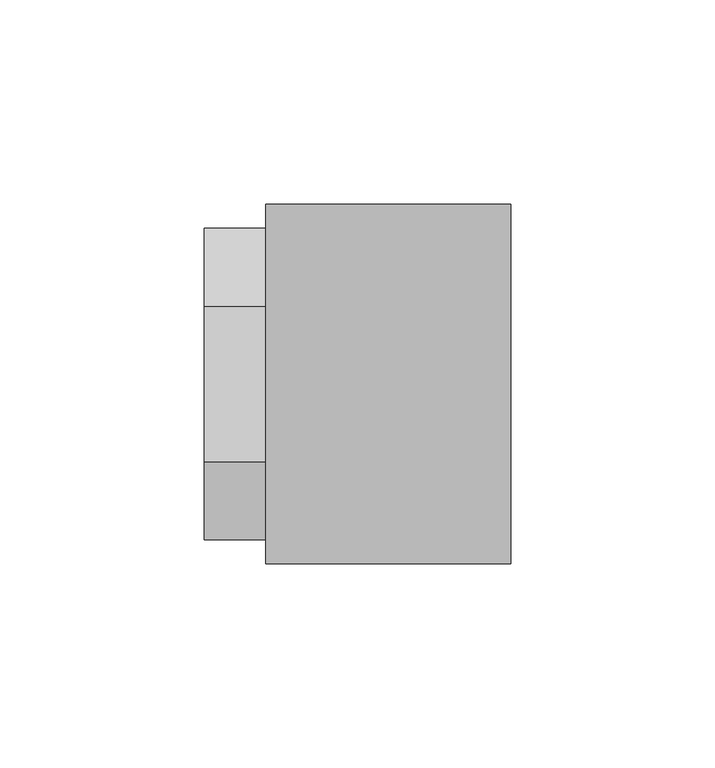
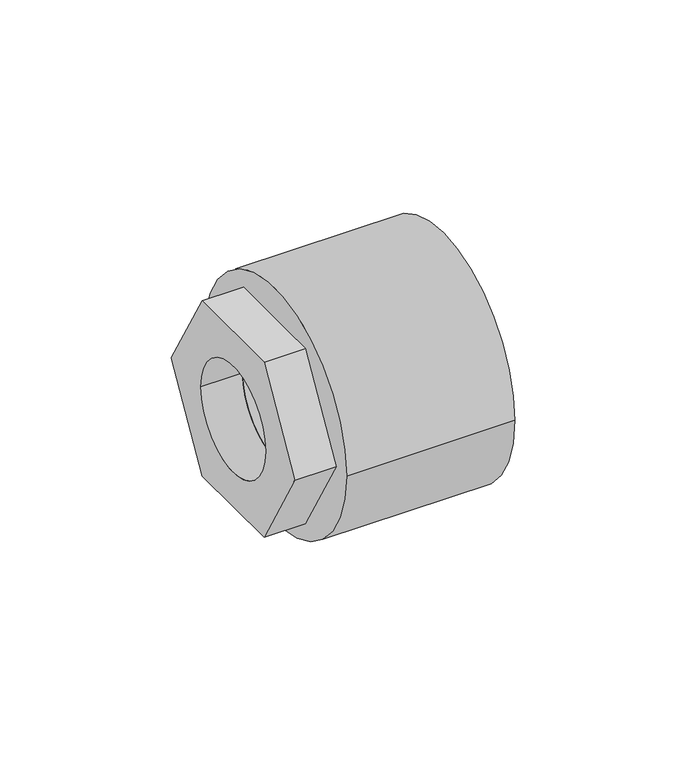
"""IFC4 building model written with IfcOpenShell, lengths in millimetres: pipe fitting geometry, NIRON RED termofusion roscado enlace rosca hembra hexagonal : Estándar."""

import ifcopenshell
import ifcopenshell.guid

model = None  # the IFC model being written
_history = None  # IfcOwnerHistory: only IFC2X3 demands one
_inside = {}  # id of a spatial element -> (the spatial element, [elements in it])
_under = {}  # id of a project, library or spatial element -> (it, [spatial elements below it])
_declared = {}  # id of a project -> (the project, [libraries it declares])
_typed = {}  # id of a type object -> (the type object, [elements of that type])
_made_of = {}  # id of a material, layer set ... -> (it, [elements and type objects made of it])


def new_model(schema):
    """Start an empty IFC model of exactly this schema.

    Asked for "IFC4X3", IfcOpenShell would pick the latest addendum, in which some entities
    have other attributes; the version numbers below select the first issue.
    IFC2X3 requires an IfcOwnerHistory on every rooted entity: one is made here for all.
    """
    global model, _history
    if schema == "IFC4X3":
        model = ifcopenshell.file(schema_version=(4, 3, 0, 0))
    else:
        model = ifcopenshell.file(schema=schema)
    _inside.clear()
    _under.clear()
    _declared.clear()
    _typed.clear()
    _made_of.clear()
    _history = None
    if model.schema == "IFC2X3":
        org = make("IfcOrganization", Name="unknown")
        user = make(
            "IfcPersonAndOrganization",
            ThePerson=make("IfcPerson", FamilyName="unknown"),
            TheOrganization=org,
        )
        app = make(
            "IfcApplication",
            ApplicationDeveloper=org,
            Version="unknown",
            ApplicationFullName="unknown",
            ApplicationIdentifier="unknown",
        )
        _history = make(
            "IfcOwnerHistory",
            OwningUser=user,
            OwningApplication=app,
            ChangeAction="ADDED",
            CreationDate=0,
        )
    return model


def make(cls, **values):
    """One entity of the class cls with the attributes given. An attribute that is None is left unset."""
    return model.create_entity(
        cls, **{name: value for name, value in values.items() if value is not None}
    )


def rooted(cls, **values):
    """An entity with a GlobalId (a new one), such as an element, a storey or a relation."""
    return make(cls, GlobalId=ifcopenshell.guid.new(), OwnerHistory=_history, **values)


def si_unit(unit_type, name, prefix=None):
    """IfcSIUnit, for example si_unit("LENGTHUNIT", "METRE", prefix="MILLI")."""
    return make("IfcSIUnit", UnitType=unit_type, Prefix=prefix, Name=name)


def assignment(units):
    """IfcUnitAssignment: the units of a project."""
    return None if units is None else make("IfcUnitAssignment", Units=units)


def point(xyz):
    """IfcCartesianPoint."""
    return None if xyz is None else make("IfcCartesianPoint", Coordinates=xyz)


def direction(xyz):
    """IfcDirection."""
    return None if xyz is None else make("IfcDirection", DirectionRatios=xyz)


def frame(location, z_axis=None, x_axis=None):
    """IfcAxis2Placement3D, a coordinate frame: its origin and axes. An axis left out is left unset."""
    return make(
        "IfcAxis2Placement3D",
        Location=point(location),
        Axis=direction(z_axis),
        RefDirection=direction(x_axis),
    )


def origin():
    """The frame at (0, 0, 0) with its axes left unset."""
    return frame((0.0, 0.0, 0.0))


def place(relative_to, where):
    """IfcLocalPlacement: puts the frame where relative to a parent placement (None: the world)."""
    return make(
        "IfcLocalPlacement", PlacementRelTo=relative_to, RelativePlacement=where
    )


def context(
    kind, dimensions, precision=None, world=None, true_north=None, identifier=None
):
    """IfcGeometricRepresentationContext, for example the 3D "Model" context."""
    return make(
        "IfcGeometricRepresentationContext",
        ContextIdentifier=identifier,
        ContextType=kind,
        CoordinateSpaceDimension=dimensions,
        Precision=precision,
        WorldCoordinateSystem=world,
        TrueNorth=true_north,
    )


def project(units=None, contexts=None):
    """IfcProject with its units and contexts."""
    return rooted(
        "IfcProject",
        Name="project",
        RepresentationContexts=contexts,
        UnitsInContext=assignment(units),
    )


def spatial(cls, under=None, at=None, **own):
    """A site, building, storey or space (cls), placed at a placement, below another one or the project."""
    s = rooted(cls, ObjectPlacement=at, **own)
    if under is not None:
        _under.setdefault(under.id(), (under, []))[1].append(s)
    return s


def polyline(points):
    """IfcPolyline through the points."""
    return make("IfcPolyline", Points=[point(p) for p in points])


def circle_curve(where, radius):
    """IfcCircle in the frame where."""
    return make("IfcCircle", Position=where, Radius=radius)


def shape(context_of_items, identifier, shape_type, items):
    """IfcShapeRepresentation: the items that make up one representation, for example the "Body"."""
    return make(
        "IfcShapeRepresentation",
        ContextOfItems=context_of_items,
        RepresentationIdentifier=identifier,
        RepresentationType=shape_type,
        Items=items,
    )


def source(mapping_origin, context_of_items, identifier, shape_type, items):
    """IfcRepresentationMap: a shape defined once, which mapped items show again and again."""
    return make(
        "IfcRepresentationMap",
        MappingOrigin=mapping_origin,
        MappedRepresentation=shape(context_of_items, identifier, shape_type, items),
    )


def transform(
    local_origin,
    x_axis=None,
    y_axis=None,
    z_axis=None,
    scale=None,
    scale2=None,
    scale3=None,
    uniform=True,
):
    """IfcCartesianTransformationOperator3D, or its non-uniform kind. x_axis, y_axis, z_axis: its Axis1, 2, 3."""
    if uniform:
        return make(
            "IfcCartesianTransformationOperator3D",
            Axis1=direction(x_axis),
            Axis2=direction(y_axis),
            LocalOrigin=point(local_origin),
            Scale=scale,
            Axis3=direction(z_axis),
        )
    return make(
        "IfcCartesianTransformationOperator3DnonUniform",
        Axis1=direction(x_axis),
        Axis2=direction(y_axis),
        LocalOrigin=point(local_origin),
        Scale=scale,
        Axis3=direction(z_axis),
        Scale2=scale2,
        Scale3=scale3,
    )


def mapped(mapping_source, mapping_target):
    """IfcMappedItem: shows the shape of a source again, moved by a transform."""
    return make(
        "IfcMappedItem", MappingSource=mapping_source, MappingTarget=mapping_target
    )


def made_of(thing, what):
    """Note that an element or type object is made of a material, layer set ...; save() writes the relation."""
    if what is not None:
        _made_of.setdefault(what.id(), (what, []))[1].append(thing)
    return thing


def element(
    cls,
    number,
    at=None,
    inside=None,
    cuts=None,
    type_object=None,
    material=None,
    context=None,
    identifier="Body",
    shape_type=None,
    held_by="IfcProductDefinitionShape",
    body=None,
    shapes=None,
    **own,
):
    """One element of the class cls, such as IfcWall. Its Tag is "e" and its number.

    at: its placement. inside: the storey or other place that contains it. cuts: it is an
    opening in that element (IfcRelVoidsElement). A single representation is given by context,
    identifier, shape_type and body (its items); several are given by shapes. held_by: the class
    of the entity that holds the representations. save() writes the other relations.
    """
    e = rooted(cls, Tag="e%d" % number, ObjectPlacement=at, **own)
    if body is not None:
        shapes = [shape(context, identifier, shape_type, body)]
    if shapes is not None:
        e.Representation = make(held_by, Representations=shapes)
    if inside is not None:
        _inside.setdefault(inside.id(), (inside, []))[1].append(e)
    if cuts is not None:
        rooted(
            "IfcRelVoidsElement", RelatingBuildingElement=cuts, RelatedOpeningElement=e
        )
    if type_object is not None:
        _typed.setdefault(type_object.id(), (type_object, []))[1].append(e)
    return made_of(e, material)


def aggregate(whole, parts):
    """IfcRelAggregates: a whole, such as a stair, and the parts it consists of."""
    return rooted("IfcRelAggregates", RelatingObject=whole, RelatedObjects=parts)


def save(model, path):
    """Write the relations noted so far, then the file.

    IfcRelAggregates (storeys below a building ...), IfcRelContainedInSpatialStructure (elements
    in a storey), IfcRelDefinesByType, IfcRelAssociatesMaterial and IfcRelDeclares: one each for
    every whole, place, type object, material and project.
    """
    for whole, parts in _under.values():
        aggregate(whole, parts)
    for where, things in _inside.values():
        rooted(
            "IfcRelContainedInSpatialStructure",
            RelatedElements=things,
            RelatingStructure=where,
        )
    for kind, things in _typed.values():
        rooted("IfcRelDefinesByType", RelatedObjects=things, RelatingType=kind)
    for what, things in _made_of.values():
        rooted("IfcRelAssociatesMaterial", RelatedObjects=things, RelatingMaterial=what)
    for by, libraries in _declared.values():
        rooted("IfcRelDeclares", RelatingContext=by, RelatedDefinitions=libraries)
    model.write(path)


def plane_surface(at):
    """IfcPlane: the flat surface through the origin of the frame at, square to its z axis."""
    return make("IfcPlane", Position=at)


def cylinder_surface(at, radius):
    """IfcCylindricalSurface: all points at the distance radius from the z axis of the frame at."""
    return make("IfcCylindricalSurface", Position=at, Radius=radius)


def revolved_surface(curve, axis_point, axis_direction):
    """IfcSurfaceOfRevolution: the curve turned about the line through axis_point along axis_direction."""
    return make(
        "IfcSurfaceOfRevolution",
        SweptCurve=make("IfcArbitraryOpenProfileDef", ProfileType="CURVE", Curve=curve),
        AxisPosition=make("IfcAxis1Placement", Location=point(axis_point), Axis=direction(axis_direction)),
    )


def advanced_brep(points, edges, surfaces, faces):
    """IfcAdvancedBrep: a solid bounded by faces that lie on surfaces and meet in shared edges.

    An edge is (start, end): straight between two places in points (the first is 0);
    or (start, end, curve); or (start, end, curve, False) where it runs against its curve.
    A face is (place in surfaces, loops), or (place, loops, False) where it looks against
    its surface's normal. A loop lists edges by number (the first is 1), with a minus sign
    where the edge is run from its end to its start. The first loop is the outer one.
    """
    corners = [point(p) for p in points]
    vertices = [make("IfcVertexPoint", VertexGeometry=c) for c in corners]
    made = []
    for start, end, *more in edges:
        made.append(
            make(
                "IfcEdgeCurve",
                EdgeStart=vertices[start],
                EdgeEnd=vertices[end],
                EdgeGeometry=more[0] if more else make("IfcPolyline", Points=[corners[start], corners[end]]),
                SameSense=more[1] if len(more) > 1 else True,
            )
        )
    hull = []
    for where, loops, *sense in faces:
        bounds = []
        for j, loop in enumerate(loops):
            ring = [make("IfcOrientedEdge", EdgeElement=made[abs(k) - 1], Orientation=k > 0) for k in loop]
            bounds.append(
                make(
                    "IfcFaceOuterBound" if j == 0 else "IfcFaceBound",
                    Bound=make("IfcEdgeLoop", EdgeList=ring),
                    Orientation=True,
                )
            )
        hull.append(make("IfcAdvancedFace", Bounds=bounds, FaceSurface=surfaces[where], SameSense=sense[0] if sense else True))
    return make("IfcAdvancedBrep", Outer=make("IfcClosedShell", CfsFaces=hull))


def pipe_fitting_adc7b66b(model_context):
    return source(origin(), model_context, "Body", "AdvancedBrep", [
        advanced_brep(
        [(75.0, 44.0, 0.0), (75.0, -44.0, 0.0), (15.0, 44.0, 0.0), (15.0, -44.0, 0.0), (15.0, -20.0, 0.0), (15.0, 20.0, 0.0), (19.0, 20.0, 0.0), (19.0, -20.0, 0.0)],
        [
            (0, 1, circle_curve(frame((75.0, 0.0, 0.0), z_axis=(1.0, 0.0, 0.0), x_axis=(0.0, -1.0, 0.0)), 44.0)),
            (1, 0, circle_curve(frame((75.0, 0.0, 0.0), z_axis=(1.0, 0.0, 0.0), x_axis=(0.0, -1.0, 0.0)), 44.0)),
            (2, 3, circle_curve(frame((15.0, 0.0, 0.0), z_axis=(-1.0, 0.0, 0.0), x_axis=(0.0, -1.0, 0.0)), 44.0)),
            (3, 2, circle_curve(frame((15.0, 0.0, 0.0), z_axis=(-1.0, 0.0, 0.0), x_axis=(0.0, -1.0, 0.0)), 44.0)),
            (4, 5, circle_curve(frame((15.0, 0.0, 0.0), z_axis=(1.0, 0.0, 0.0), x_axis=(0.0, -1.0, 0.0)), 20.0)),
            (5, 4, circle_curve(frame((15.0, 0.0, 0.0), z_axis=(1.0, 0.0, 0.0), x_axis=(0.0, -1.0, 0.0)), 20.0)),
            (1, 3),
            (2, 0),
            (6, 7, circle_curve(frame((19.0, 0.0, 0.0), z_axis=(-1.0, 0.0, 0.0), x_axis=(0.0, -1.0, 0.0)), 20.0)),
            (7, 6, circle_curve(frame((19.0, 0.0, 0.0), z_axis=(-1.0, 0.0, 0.0), x_axis=(0.0, -1.0, 0.0)), 20.0)),
            (6, 5),
            (4, 7),
        ],
        [
            plane_surface(frame((75.0, -44.0, 0.0), z_axis=(1.0, 0.0, 0.0), x_axis=(0.0, 0.0, -1.0))),
            plane_surface(frame((15.0, -44.0, 0.0), z_axis=(-1.0, 0.0, 0.0), x_axis=(0.0, 0.0, 1.0))),
            cylinder_surface(frame((75.0, 0.0, 0.0), z_axis=(-1.0, 0.0, 0.0), x_axis=(0.0, -1.0, 0.0)), 44.0),
            plane_surface(frame((19.0, -20.0, 0.0), z_axis=(-1.0, 0.0, 0.0), x_axis=(0.0, 0.0, -1.0))),
            revolved_surface(polyline([(15.0, -20.0, 0.0), (19.0, -20.0, 0.0)]), (19.0, 0.0, 0.0), (-1.0, 0.0, 0.0)),
        ],
        [
            (0, [[1, 2]]),
            (1, [[3, 4], [5, 6]]),
            (2, [[-2, 7, -3, 8]]),
            (2, [[-1, -8, -4, -7]]),
            (3, [[9, 10]]),
            (4, [[-9, 11, -5, 12]]),
            (4, [[-10, -12, -6, -11]]),
        ],
    ),
        advanced_brep(
        [(45.0, -19.0525589, -33.0), (45.0, 19.0525589, -33.0), (45.0, 38.1051178, 0.0), (45.0, 19.0525589, 33.0), (45.0, -19.0525589, 33.0), (45.0, -38.1051178, 0.0), (0.0, -19.0525589, -33.0), (0.0, -38.1051178, 0.0), (0.0, -19.0525589, 33.0), (0.0, 19.0525589, 33.0), (0.0, 38.1051178, 0.0), (0.0, 19.0525589, -33.0), (0.0, -20.0, 0.0), (0.0, 20.0, 0.0), (19.0, 20.0, 0.0), (19.0, -20.0, 0.0)],
        [
            (0, 1),
            (1, 2),
            (2, 3),
            (3, 4),
            (4, 5),
            (5, 0),
            (6, 7),
            (7, 8),
            (8, 9),
            (9, 10),
            (10, 11),
            (11, 6),
            (12, 13, circle_curve(frame((0.0, 0.0, 0.0), z_axis=(1.0, 0.0, 0.0), x_axis=(0.0, -1.0, 0.0)), 20.0)),
            (13, 12, circle_curve(frame((0.0, 0.0, 0.0), z_axis=(1.0, 0.0, 0.0), x_axis=(0.0, -1.0, 0.0)), 20.0)),
            (0, 6),
            (11, 1),
            (10, 2),
            (9, 3),
            (8, 4),
            (7, 5),
            (14, 15, circle_curve(frame((19.0, 0.0, 0.0), z_axis=(-1.0, 0.0, 0.0), x_axis=(0.0, -1.0, 0.0)), 20.0)),
            (15, 14, circle_curve(frame((19.0, 0.0, 0.0), z_axis=(-1.0, 0.0, 0.0), x_axis=(0.0, -1.0, 0.0)), 20.0)),
            (14, 13),
            (12, 15),
        ],
        [
            plane_surface(frame((45.0, 0.0, 0.0), z_axis=(1.0, 0.0, 0.0), x_axis=(0.0, 0.0, 1.0))),
            plane_surface(frame((0.0, 0.0, 0.0), z_axis=(-1.0, 0.0, 0.0), x_axis=(0.0, 0.0, 1.0))),
            plane_surface(frame((45.0, -19.0525589, -33.0), z_axis=(0.0, 0.0, -1.0), x_axis=(-1.0, 0.0, 0.0))),
            plane_surface(frame((45.0, 19.0525589, -33.0), z_axis=(0.0, 0.8660254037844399, -0.4999999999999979), x_axis=(-1.0, 0.0, 0.0))),
            plane_surface(frame((45.0, 38.1051178, 0.0), z_axis=(0.0, 0.8660254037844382, 0.500000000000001), x_axis=(-1.0, 0.0, 0.0))),
            plane_surface(frame((45.0, 19.0525589, 33.0), z_axis=(0.0, 0.0, 1.0), x_axis=(-1.0, 0.0, 0.0))),
            plane_surface(frame((45.0, -19.0525589, 33.0), z_axis=(0.0, -0.8660254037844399, 0.4999999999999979), x_axis=(-1.0, 0.0, 0.0))),
            plane_surface(frame((45.0, -38.1051178, 0.0), z_axis=(0.0, -0.866025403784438, -0.500000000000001), x_axis=(-1.0, 0.0, 0.0))),
            plane_surface(frame((19.0, -20.0, 0.0), z_axis=(-1.0, 0.0, 0.0), x_axis=(0.0, 0.0, -1.0))),
            revolved_surface(polyline([(0.0, -20.0, 0.0), (19.0, -20.0, 0.0)]), (19.0, 0.0, 0.0), (-1.0, 0.0, 0.0)),
        ],
        [
            (0, [[1, 2, 3, 4, 5, 6]]),
            (1, [[7, 8, 9, 10, 11, 12], [13, 14]]),
            (2, [[-1, 15, -12, 16]]),
            (3, [[-2, -16, -11, 17]]),
            (4, [[-3, -17, -10, 18]]),
            (5, [[-4, -18, -9, 19]]),
            (6, [[-5, -19, -8, 20]]),
            (7, [[-6, -20, -7, -15]]),
            (8, [[21, 22]]),
            (9, [[-21, 23, -13, 24]]),
            (9, [[-22, -24, -14, -23]]),
        ],
    ),
    ])


if __name__ == "__main__":
    model = new_model("IFC4")
    model_context = context("Model", 3, world=origin())
    ifc_project = project(units=[si_unit("LENGTHUNIT", "METRE", prefix="MILLI")], contexts=[model_context])
    site = spatial("IfcSite", under=ifc_project)
    building = spatial("IfcBuilding", under=site)
    placement = place(None, origin())
    pipe_fitting_shape = pipe_fitting_adc7b66b(model_context)
    element("IfcPipeFitting", 1, ObjectType="NIRON RED termofusion roscado enlace rosca hembra hexagonal : Estándar", at=placement, inside=building, context=model_context, shape_type="MappedRepresentation", body=[
        mapped(pipe_fitting_shape, transform((0.0, 0.0, 0.0), x_axis=(1.0, 0.0, 0.0), y_axis=(0.0, 1.0, 0.0), z_axis=(0.0, 0.0, 1.0))),
    ])
    save(model, "model.ifc")
